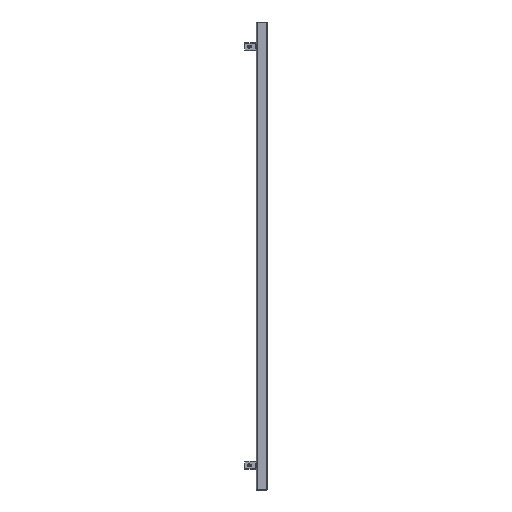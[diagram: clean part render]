
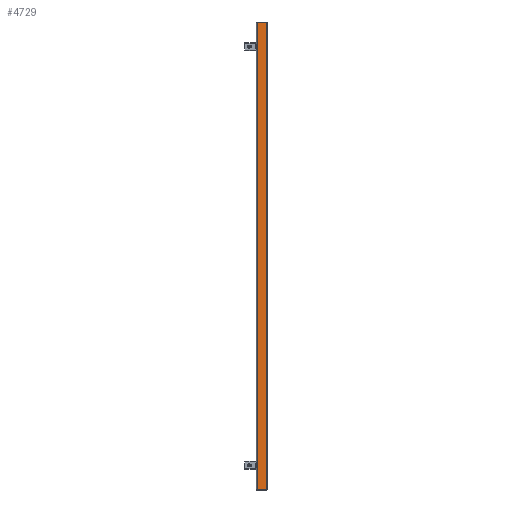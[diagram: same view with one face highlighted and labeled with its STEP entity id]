
A CAD part, left-side view. The second image highlights one B-rep face of the part: STEP entity #4729.
In plain terms, the highlighted planar face has unit normal (-1, 0, 0).
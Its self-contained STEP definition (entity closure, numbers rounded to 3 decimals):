
#4380=CARTESIAN_POINT('',(-190.0,-17.,1.5));
#4381=VERTEX_POINT('',#4380);
#4532=CARTESIAN_POINT('',(-190.0,17.,1.5));
#4533=VERTEX_POINT('',#4532);
#4550=CARTESIAN_POINT('',(-190.0,-17.,1.5));
#4551=DIRECTION('',(0.0,1.0,0.0));
#4552=VECTOR('',#4551,34.0);
#4553=LINE('',#4550,#4552);
#4554=EDGE_CURVE('',#4381,#4533,#4553,.T.);
#4699=CARTESIAN_POINT('',(-190.0,-17.,0.0));
#4700=DIRECTION('',(-1.0,0.0,0.0));
#4701=DIRECTION('',(0.0,0.0,1.0));
#4702=AXIS2_PLACEMENT_3D('',#4699,#4700,#4701);
#4703=PLANE('',#4702);
#4704=ORIENTED_EDGE('',*,*,#4554,.F.);
#4705=CARTESIAN_POINT('',(-190.0,-17.,1698.5));
#4706=VERTEX_POINT('',#4705);
#4707=CARTESIAN_POINT('',(-190.0,-17.,1.5));
#4708=DIRECTION('',(0.0,0.0,1.0));
#4709=VECTOR('',#4708,1697.0);
#4710=LINE('',#4707,#4709);
#4711=EDGE_CURVE('',#4381,#4706,#4710,.T.);
#4712=ORIENTED_EDGE('',*,*,#4711,.T.);
#4713=CARTESIAN_POINT('',(-190.0,17.,1698.5));
#4714=VERTEX_POINT('',#4713);
#4715=CARTESIAN_POINT('',(-190.0,17.,1698.5));
#4716=DIRECTION('',(0.0,-1.0,0.0));
#4717=VECTOR('',#4716,34.0);
#4718=LINE('',#4715,#4717);
#4719=EDGE_CURVE('',#4714,#4706,#4718,.T.);
#4720=ORIENTED_EDGE('',*,*,#4719,.F.);
#4721=CARTESIAN_POINT('',(-190.0,17.,1.5));
#4722=DIRECTION('',(0.0,0.0,1.0));
#4723=VECTOR('',#4722,1697.0);
#4724=LINE('',#4721,#4723);
#4725=EDGE_CURVE('',#4533,#4714,#4724,.T.);
#4726=ORIENTED_EDGE('',*,*,#4725,.F.);
#4727=EDGE_LOOP('',(#4704,#4712,#4720,#4726));
#4728=FACE_OUTER_BOUND('',#4727,.T.);
#4729=ADVANCED_FACE('',(#4728),#4703,.T.);
